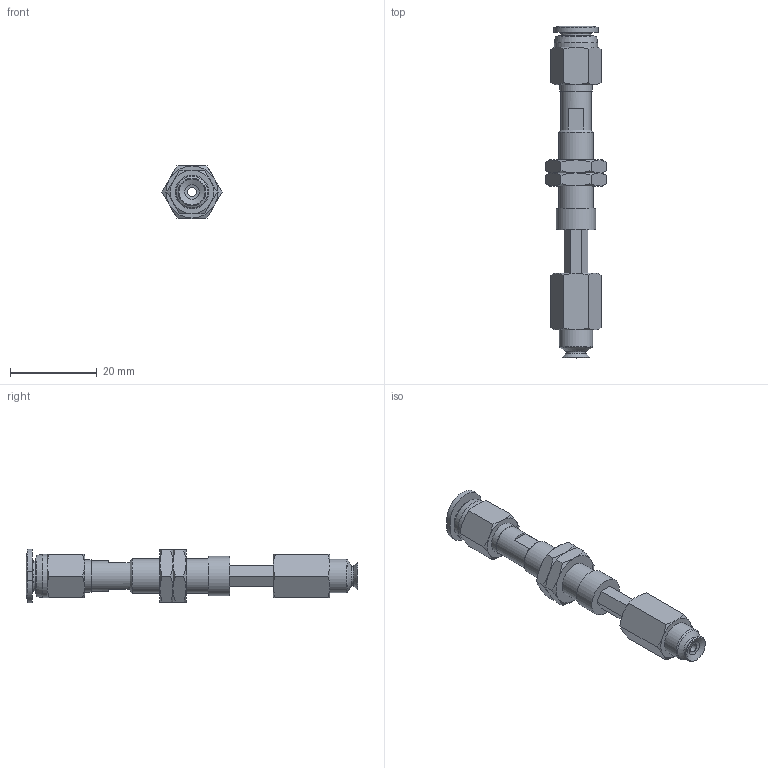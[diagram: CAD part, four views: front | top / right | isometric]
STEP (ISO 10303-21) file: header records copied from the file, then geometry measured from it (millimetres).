
FILE_DESCRIPTION(('STEP AP203'),'1');
FILE_NAME('-O.stp','2025-08-27T02:56:42',(' '),(' '),'Spatial InterOp 3D',' ',' ');
FILE_SCHEMA(('CONFIG_CONTROL_DESIGN'));
Length unit declared in the file: millimetre
Products named in the file (7): BNABPFTH-6A-10-※-O; ADAPTER; NAPATH-10A-10--M; Nut-6A-10-h; NAPFTH-6A-10-FBODY; BPFG-6A-※; PC-C_06-M5
Assembly tree (7 placements, depth 2):
  BNABPFTH-6A-10-※-O
    ADAPTER
    NAPATH-10A-10--M
    Nut-6A-10-h  x2
    NAPFTH-6A-10-FBODY
    BPFG-6A-※
    PC-C_06-M5
Bounding box: 13.86 x 76.48 x 12.4 mm (x, y, z)
Volume: 3364.6 mm3; surface area: 5070.4 mm2
Topology: 6 solids, 9 shells, 173 faces, 365 edges, 221 vertices
Faces by surface type: plane 69, cone 62, cylinder 23, torus 11, bspline 5, revolution 3
Full cylindrical faces by diameter (mm): 2 x3, 4 x4, 4.134 x1, 5 x1, 6 x2, 7 x2, 7.188 x2, 7.4 x1, 7.7 x1, 8 x1, 8.2 x1, 9 x1, 10 x1
Entity records: 4495 total; most frequent: CARTESIAN_POINT 1268, DIRECTION 593, ORIENTED_EDGE 520, EDGE_CURVE 262, AXIS2_PLACEMENT_3D 257, EDGE_LOOP 220, VERTEX_POINT 184, FACE_OUTER_BOUND 122
